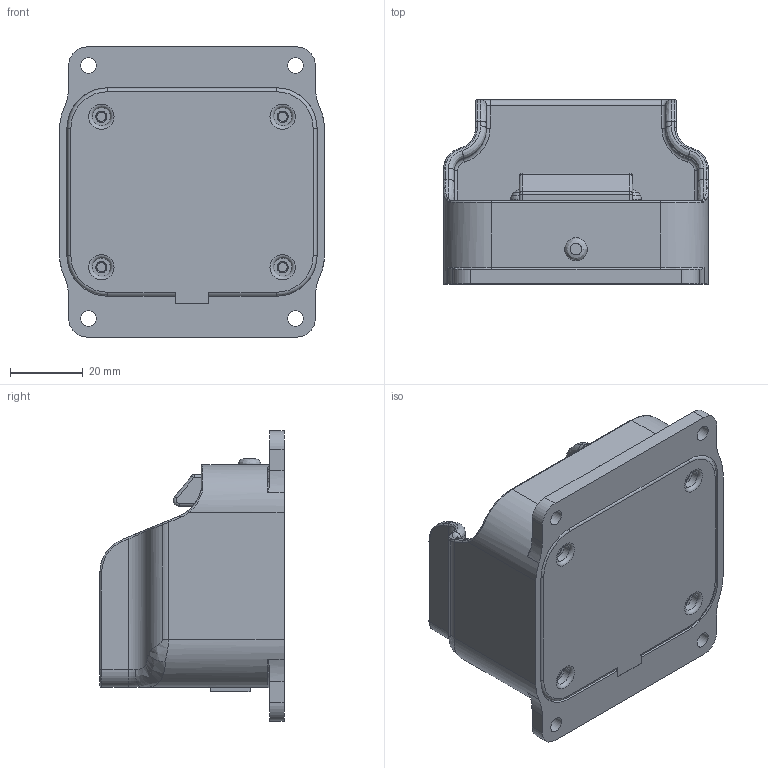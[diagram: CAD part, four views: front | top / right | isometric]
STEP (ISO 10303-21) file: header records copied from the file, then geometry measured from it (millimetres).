
FILE_DESCRIPTION (( 'STEP AP203' ), '1' );
FILE_NAME ('5566-CHGR-MECH-GA01-01-DL-160809.STEP', '2022-07-20T15:04:14', ( '' ), ( '' ), 'SwSTEP 2.0', 'SolidWorks 2022', '' );
FILE_SCHEMA (( 'CONFIG_CONTROL_DESIGN' ));
Length unit declared in the file: inch
Products named in the file (8): charger cover; DC Jack; Charger PCBA; 5566-MECH-CHGR-CPIN-01; 5566-MECH-CHGR1-BODY-01; LED COVER; Part1^5566-CHGR-MECH-GA01-01; 5566-CHGR-MECH-GA01-01-DL-160809
Assembly tree (8 placements, depth 2):
  5566-CHGR-MECH-GA01-01-DL-160809
    5566-MECH-CHGR1-BODY-01
    Part1^5566-CHGR-MECH-GA01-01
    5566-MECH-CHGR-CPIN-01  x2
    LED COVER
    charger cover
    DC Jack
    Charger PCBA
Bounding box: 73.03 x 50.8 x 80 mm (x, y, z)
Volume: 55794.3 mm3; surface area: 61024.7 mm2
Topology: 10 solids, 10 shells, 568 faces, 1421 edges, 913 vertices
Faces by surface type: plane 290, cylinder 179, torus 50, bspline 33, cone 16
Full cylindrical faces by diameter (mm): 0.7 x6, 1 x2, 1.6 x2, 2 x1, 2.5 x4, 3 x2, 3.1 x4, 3.162 x1, 3.175 x2, 3.2 x2, 4 x2, 4.3 x4, 4.763 x1, 4.775 x2, 5 x4, 5.6 x4, 6 x6, 6.15 x2, 6.3 x1, 6.363 x1, 6.5 x4, 7 x2, 8 x6, 8.15 x2, 9.4 x2, 10.15 x2, 11 x2
Entity records: 18657 total; most frequent: CARTESIAN_POINT 5113, DIRECTION 2659, ORIENTED_EDGE 2496, EDGE_CURVE 1248, AXIS2_PLACEMENT_3D 985, VERTEX_POINT 852, EDGE_LOOP 730, VECTOR 689
